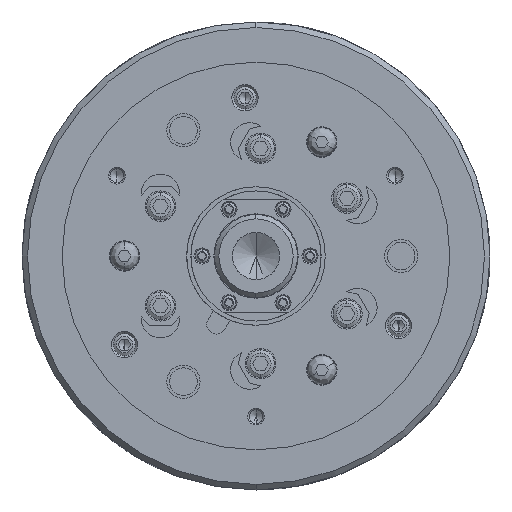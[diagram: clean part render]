
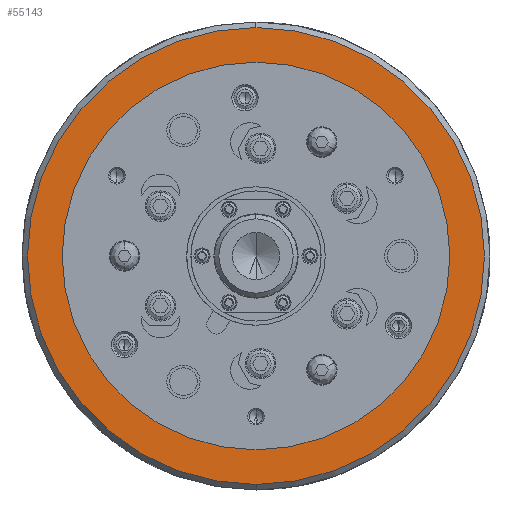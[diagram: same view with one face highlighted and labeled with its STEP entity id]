
A CAD part, left-side view. The second image highlights one B-rep face of the part: STEP entity #55143.
In plain terms, the highlighted planar face has unit normal (-1, 0, 0).
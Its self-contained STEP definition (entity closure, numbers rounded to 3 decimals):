
#5748 = DIRECTION ( 'NONE',  ( 1., 0., 0. ) ) ;
#8167 = ORIENTED_EDGE ( 'NONE', *, *, #65155, .T. ) ;
#9450 = VERTEX_POINT ( 'NONE', #21992 ) ;
#12294 = DIRECTION ( 'NONE',  ( 0., 0., 1. ) ) ;
#13000 = DIRECTION ( 'NONE',  ( 1., 0., 0. ) ) ;
#15526 = AXIS2_PLACEMENT_3D ( 'NONE', #62114, #29917, #68680 ) ;
#16720 = AXIS2_PLACEMENT_3D ( 'NONE', #39279, #5748, #44872 ) ;
#20208 = AXIS2_PLACEMENT_3D ( 'NONE', #46412, #13000, #51977 ) ;
#21992 = CARTESIAN_POINT ( 'NONE',  ( -86., 0., -70. ) ) ;
#24418 = CARTESIAN_POINT ( 'NONE',  ( -86., 0., 82.5 ) ) ;
#25135 = CARTESIAN_POINT ( 'NONE',  ( -86., 0., 0. ) ) ;
#29917 = DIRECTION ( 'NONE',  ( 1., 0., 0. ) ) ;
#30714 = DIRECTION ( 'NONE',  ( 0., 0., -1. ) ) ;
#31628 = EDGE_CURVE ( 'NONE', #9450, #61909, #34264, .T. ) ;
#31773 = CARTESIAN_POINT ( 'NONE',  ( -86., 0., 70. ) ) ;
#33246 = CARTESIAN_POINT ( 'NONE',  ( -86., 0., -82.5 ) ) ;
#33538 = AXIS2_PLACEMENT_3D ( 'NONE', #25135, #63868, #30714 ) ;
#34264 = CIRCLE ( 'NONE', #33538, 70. ) ;
#34655 = VERTEX_POINT ( 'NONE', #33246 ) ;
#38509 = ORIENTED_EDGE ( 'NONE', *, *, #43422, .F. ) ;
#39279 = CARTESIAN_POINT ( 'NONE',  ( -86., 0., 0. ) ) ;
#40146 = PLANE ( 'NONE',  #58680 ) ;
#40289 = EDGE_LOOP ( 'NONE', ( #40576, #38509 ) ) ;
#40576 = ORIENTED_EDGE ( 'NONE', *, *, #69418, .F. ) ;
#43422 = EDGE_CURVE ( 'NONE', #67011, #34655, #65791, .T. ) ;
#44872 = DIRECTION ( 'NONE',  ( 0., 0., -1. ) ) ;
#45734 = DIRECTION ( 'NONE',  ( -1., 0., 0. ) ) ;
#46412 = CARTESIAN_POINT ( 'NONE',  ( -86., 0., 0. ) ) ;
#48315 = ORIENTED_EDGE ( 'NONE', *, *, #31628, .T. ) ;
#51977 = DIRECTION ( 'NONE',  ( 0., 0., -1. ) ) ;
#53392 = FACE_OUTER_BOUND ( 'NONE', #40289, .T. ) ;
#55120 = FACE_BOUND ( 'NONE', #64405, .T. ) ;
#55143 = ADVANCED_FACE ( 'NONE', ( #53392, #55120 ), #40146, .T. ) ;
#58680 = AXIS2_PLACEMENT_3D ( 'NONE', #62122, #45734, #12294 ) ;
#61909 = VERTEX_POINT ( 'NONE', #31773 ) ;
#62114 = CARTESIAN_POINT ( 'NONE',  ( -86., 0., 0. ) ) ;
#62122 = CARTESIAN_POINT ( 'NONE',  ( -86., 41.25, -71.447 ) ) ;
#63264 = CIRCLE ( 'NONE', #15526, 70. ) ;
#63868 = DIRECTION ( 'NONE',  ( 1., 0., 0. ) ) ;
#64405 = EDGE_LOOP ( 'NONE', ( #48315, #8167 ) ) ;
#65155 = EDGE_CURVE ( 'NONE', #61909, #9450, #63264, .T. ) ;
#65791 = CIRCLE ( 'NONE', #20208, 82.5 ) ;
#67011 = VERTEX_POINT ( 'NONE', #24418 ) ;
#68680 = DIRECTION ( 'NONE',  ( 0., 0., -1. ) ) ;
#68768 = CIRCLE ( 'NONE', #16720, 82.5 ) ;
#69418 = EDGE_CURVE ( 'NONE', #34655, #67011, #68768, .T. ) ;
